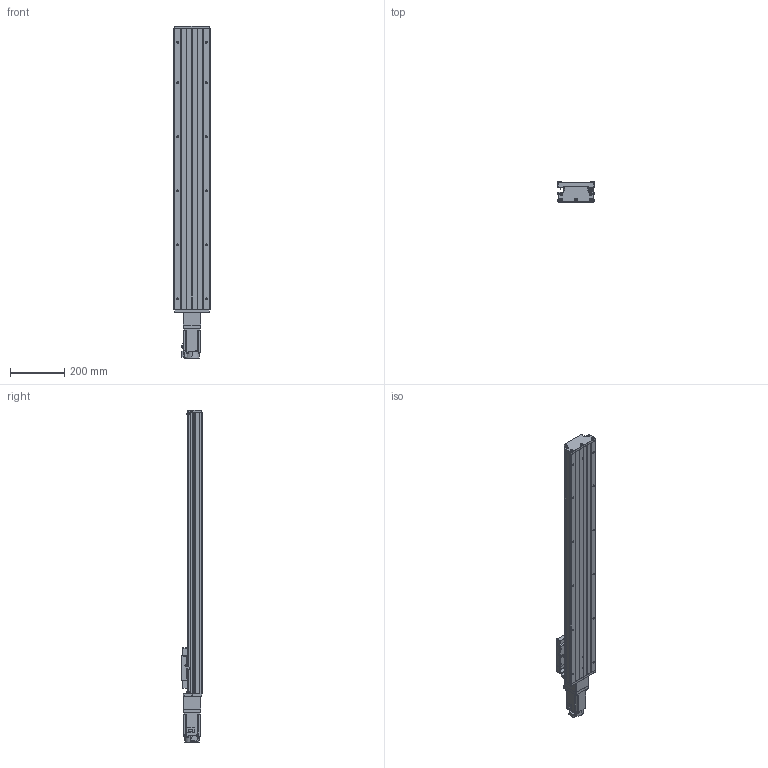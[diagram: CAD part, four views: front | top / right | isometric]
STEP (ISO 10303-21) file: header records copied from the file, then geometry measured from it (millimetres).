
FILE_DESCRIPTION (( 'STEP AP203' ), '1' );
FILE_NAME ('CTH130-850-BC-M40-C4.step', '2023-06-30T02:34:46', ( '微软用户' ), ( '微软中国' ), 'SwSTEP 2.0', 'SolidWorks 2020', '' );
FILE_SCHEMA (( 'CONFIG_CONTROL_DESIGN' ));
Length unit declared in the file: millimetre
Products named in the file (21): GB T308.1-2013-6.35; CTHA60-016; CTHA86-013; GTH14-004; GBT 70.1-M3℅5; CTHA86-027-1; GTH14-005; GBT77-2000 M3×3; GBT 70.3-M3℅8; GB1155-6X6; CTH130-031; HG-KN43J-S100; GBT70.1 M5℅16; GBT 70.2-M3¡Á5_M3¡Á6; CTH130-850-BC-M40-C4; GTH14-001_850; CTHA60-017; す晦芛蹟隊 M3℅5; CTH130-002_GTH14-002; EE_SX911P_R; CTHA86-006-1_M40
Assembly tree (59 placements, depth 2):
  CTH130-850-BC-M40-C4
    GTH14-001_850
    CTH130-002_GTH14-002
    GB T308.1-2013-6.35  x2
    GTH14-004
    GTH14-005
    GB1155-6X6  x2
    GBT70.1 M5℅16  x10
    CTHA60-017  x3
    EE_SX911P_R  x3
    CTHA60-016  x2
    GBT 70.1-M3℅5  x6
    GBT77-2000 M3×3  x6
    CTH130-031
    GBT 70.2-M3¡Á5_M3¡Á6  x8
    す晦芛蹟隊 M3℅5  x6
    CTHA86-006-1_M40
    CTHA86-013
    CTHA86-027-1
    GBT 70.3-M3℅8  x2
    HG-KN43J-S100
Bounding box: 135 x 76 x 1228.7 mm (x, y, z)
Volume: 5925745.8 mm3; surface area: 920880.4 mm2
Topology: 62 solids, 62 shells, 2390 faces, 5705 edges, 3535 vertices
Faces by surface type: plane 1305, cylinder 634, cone 287, torus 120, sphere 24, bspline 20
Entity records: 43988 total; most frequent: CARTESIAN_POINT 9855, DIRECTION 6391, ORIENTED_EDGE 6310, EDGE_CURVE 3155, AXIS2_PLACEMENT_3D 2167, VECTOR 2057, LINE 2057, VERTEX_POINT 1995
